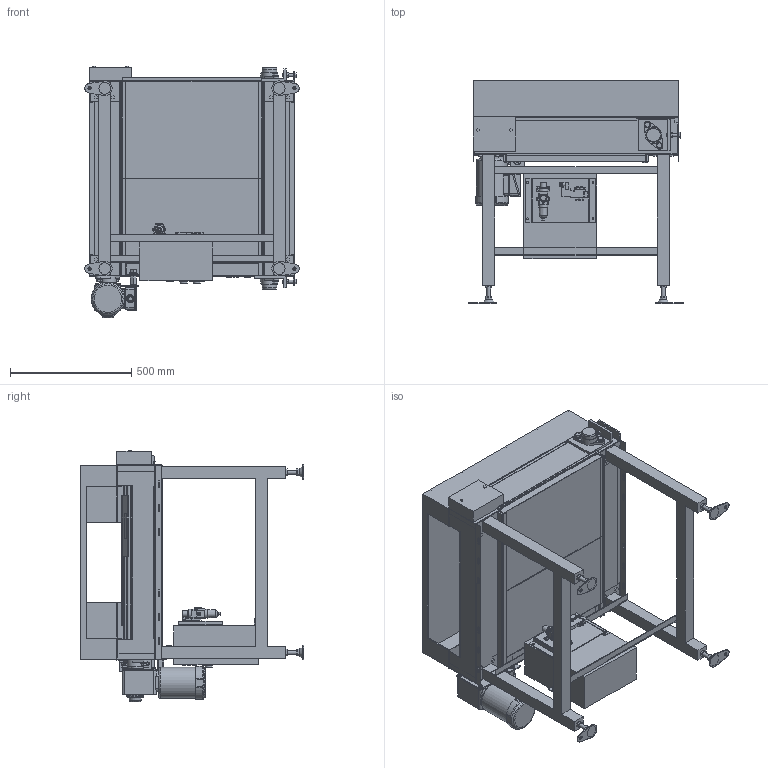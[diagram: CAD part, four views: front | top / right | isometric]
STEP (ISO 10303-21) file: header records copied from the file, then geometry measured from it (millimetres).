
FILE_DESCRIPTION (( 'STEP AP214' ), '1' );
FILE_NAME ('SLS-H-2-250-300-L.STEP', '2023-04-20T04:57:34', ( '' ), ( '' ), 'SwSTEP 2.0', 'SolidWorks 2017', '' );
FILE_SCHEMA (( 'AUTOMOTIVE_DESIGN' ));
Length unit declared in the file: millimetre
Products named in the file (1): SLS-H-2-250-300-L
Bounding box: 884 x 920.6 x 1039.5 mm (x, y, z)
Volume: 52160752.9 mm3; surface area: 10140580.8 mm2
Topology: 89 solids, 89 shells, 3114 faces, 8165 edges, 5323 vertices
Faces by surface type: plane 2437, cylinder 505, cone 142, bspline 15, torus 11, sphere 4
Full cylindrical faces by diameter (mm): 2.459 x2, 3.2 x4, 4.386 x2, 6 x3, 6.5 x2, 6.8 x3, 7 x4, 7.9 x4, 8 x6, 8.376 x4, 8.5 x6, 9 x1, 9.7 x3, 9.9 x1, 10 x1, 10.5 x4, 11 x5, 11.8 x4, 12 x2, 12.3 x1, 13 x8, 13.8 x1, 14 x10, 15 x1, 15.4 x1, 16 x16, 18 x1, 19 x1, 20 x1, 21 x6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
Entity records: 133959 total; most frequent: CARTESIAN_POINT 22457, ORIENTED_EDGE 15798, DIRECTION 15090, EDGE_CURVE 7899, LINE 6380, VECTOR 6380, VERTEX_POINT 5264, AXIS2_PLACEMENT_3D 4355
